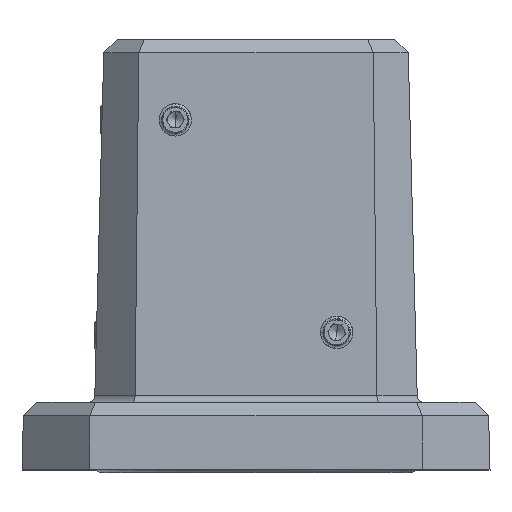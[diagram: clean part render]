
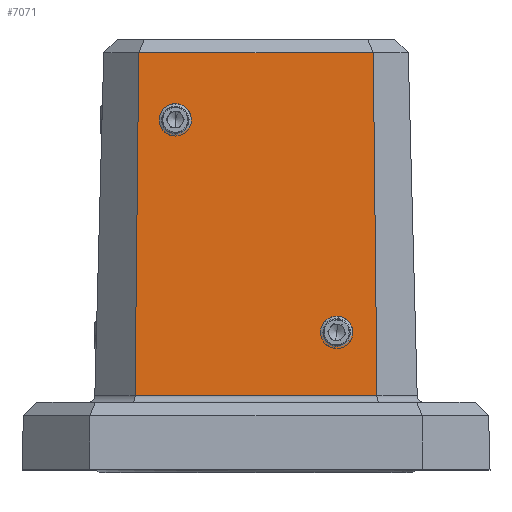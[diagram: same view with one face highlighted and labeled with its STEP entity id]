
A CAD part, top view. The second image highlights one B-rep face of the part: STEP entity #7071.
In plain terms, the highlighted planar face has unit normal (0, 0.026, 1).
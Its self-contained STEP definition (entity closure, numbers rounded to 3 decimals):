
#2274=DIRECTION('',(-0.011,1.,-0.026));
#2275=VECTOR('',#2274,127.617);
#2276=CARTESIAN_POINT('',(44.974,27.435,59.936));
#2277=LINE('',#2276,#2275);
#2288=DIRECTION('',(1.,0.,0.));
#2289=VECTOR('',#2288,89.947);
#2290=CARTESIAN_POINT('',(-44.974,27.435,59.936));
#2291=LINE('',#2290,#2289);
#2295=DIRECTION('',(0.011,1.,-0.026));
#2296=VECTOR('',#2295,127.617);
#2297=CARTESIAN_POINT('',(-44.974,27.435,59.936));
#2298=LINE('',#2297,#2296);
#2302=DIRECTION('',(1.,0.,0.));
#2303=VECTOR('',#2302,87.18);
#2304=CARTESIAN_POINT('',(-43.59,155.,56.596));
#2305=LINE('',#2304,#2303);
#2309=CARTESIAN_POINT('',(-35.1,130.,57.25));
#2310=CARTESIAN_POINT('',(-35.1,130.601,57.235));
#2311=CARTESIAN_POINT('',(-34.881,131.899,57.201));
#2312=CARTESIAN_POINT('',(-33.717,133.714,57.153));
#2313=CARTESIAN_POINT('',(-31.887,134.882,57.123));
#2314=CARTESIAN_POINT('',(-30.,135.209,57.114));
#2315=CARTESIAN_POINT('',(-28.113,134.882,57.123));
#2316=CARTESIAN_POINT('',(-26.283,133.714,57.153));
#2317=CARTESIAN_POINT('',(-25.119,131.899,57.201));
#2318=CARTESIAN_POINT('',(-24.9,130.601,57.235));
#2319=CARTESIAN_POINT('',(-24.9,130.,57.25));
#2324=CARTESIAN_POINT('',(-24.9,130.,57.25));
#2325=CARTESIAN_POINT('',(-24.9,129.399,57.266));
#2326=CARTESIAN_POINT('',(-25.119,128.101,57.3));
#2327=CARTESIAN_POINT('',(-26.283,126.286,57.348));
#2328=CARTESIAN_POINT('',(-28.113,125.118,57.378));
#2329=CARTESIAN_POINT('',(-30.,124.791,57.387));
#2330=CARTESIAN_POINT('',(-31.887,125.118,57.378));
#2331=CARTESIAN_POINT('',(-33.717,126.286,57.348));
#2332=CARTESIAN_POINT('',(-34.881,128.101,57.3));
#2333=CARTESIAN_POINT('',(-35.1,129.399,57.266));
#2334=CARTESIAN_POINT('',(-35.1,130.,57.25));
#2339=CARTESIAN_POINT('',(24.9,51.,59.319));
#2340=CARTESIAN_POINT('',(24.9,51.601,59.303));
#2341=CARTESIAN_POINT('',(25.119,52.899,59.269));
#2342=CARTESIAN_POINT('',(26.283,54.714,59.222));
#2343=CARTESIAN_POINT('',(28.113,55.882,59.191));
#2344=CARTESIAN_POINT('',(30.,56.209,59.183));
#2345=CARTESIAN_POINT('',(31.887,55.882,59.191));
#2346=CARTESIAN_POINT('',(33.717,54.714,59.222));
#2347=CARTESIAN_POINT('',(34.881,52.899,59.269));
#2348=CARTESIAN_POINT('',(35.1,51.601,59.303));
#2349=CARTESIAN_POINT('',(35.1,51.,59.319));
#2354=CARTESIAN_POINT('',(35.1,51.,59.319));
#2355=CARTESIAN_POINT('',(35.1,50.399,59.335));
#2356=CARTESIAN_POINT('',(34.881,49.101,59.369));
#2357=CARTESIAN_POINT('',(33.717,47.286,59.416));
#2358=CARTESIAN_POINT('',(31.887,46.118,59.447));
#2359=CARTESIAN_POINT('',(30.,45.791,59.456));
#2360=CARTESIAN_POINT('',(28.113,46.118,59.447));
#2361=CARTESIAN_POINT('',(26.283,47.286,59.416));
#2362=CARTESIAN_POINT('',(25.119,49.101,59.369));
#2363=CARTESIAN_POINT('',(24.9,50.399,59.335));
#2364=CARTESIAN_POINT('',(24.9,51.,59.319));
#6020=CARTESIAN_POINT('',(-44.974,27.435,59.936));
#6021=CARTESIAN_POINT('',(44.974,27.435,59.936));
#6022=VERTEX_POINT('',#6020);
#6023=VERTEX_POINT('',#6021);
#6085=CARTESIAN_POINT('',(-43.59,155.,56.596));
#6086=VERTEX_POINT('',#6085);
#6087=CARTESIAN_POINT('',(43.59,155.,56.596));
#6088=VERTEX_POINT('',#6087);
#6141=VERTEX_POINT('',#2309);
#6142=VERTEX_POINT('',#2319);
#6145=VERTEX_POINT('',#2339);
#6146=VERTEX_POINT('',#2349);
#7046=CARTESIAN_POINT('',(-49.523,25.,60.));
#7047=DIRECTION('',(0.,0.026,1.));
#7048=DIRECTION('',(1.,0.,0.));
#7049=AXIS2_PLACEMENT_3D('',#7046,#7047,#7048);
#7050=PLANE('',#7049);
#7052=ORIENTED_EDGE('',*,*,#7051,.F.);
#7053=ORIENTED_EDGE('',*,*,#6761,.T.);
#7055=ORIENTED_EDGE('',*,*,#7054,.T.);
#7056=ORIENTED_EDGE('',*,*,#7031,.F.);
#7057=EDGE_LOOP('',(#7052,#7053,#7055,#7056));
#7058=FACE_OUTER_BOUND('',#7057,.F.);
#7060=ORIENTED_EDGE('',*,*,#7059,.F.);
#7062=ORIENTED_EDGE('',*,*,#7061,.F.);
#7063=EDGE_LOOP('',(#7060,#7062));
#7064=FACE_BOUND('',#7063,.F.);
#7066=ORIENTED_EDGE('',*,*,#7065,.F.);
#7068=ORIENTED_EDGE('',*,*,#7067,.F.);
#7069=EDGE_LOOP('',(#7066,#7068));
#7070=FACE_BOUND('',#7069,.F.);
#2320=B_SPLINE_CURVE_WITH_KNOTS('',3,(#2309,#2310,#2311,#2312,#2313,#2314,#2315,
#2316,#2317,#2318,#2319),.UNSPECIFIED.,.F.,.F.,(4,1,1,1,1,1,1,1,4),(0.,
0.125,0.25,0.375,0.5,0.625,0.75,0.875,1.),.UNSPECIFIED.);
#2335=B_SPLINE_CURVE_WITH_KNOTS('',3,(#2324,#2325,#2326,#2327,#2328,#2329,#2330,
#2331,#2332,#2333,#2334),.UNSPECIFIED.,.F.,.F.,(4,1,1,1,1,1,1,1,4),(0.,
0.125,0.25,0.375,0.5,0.625,0.75,0.875,1.),.UNSPECIFIED.);
#2350=B_SPLINE_CURVE_WITH_KNOTS('',3,(#2339,#2340,#2341,#2342,#2343,#2344,#2345,
#2346,#2347,#2348,#2349),.UNSPECIFIED.,.F.,.F.,(4,1,1,1,1,1,1,1,4),(0.,
0.125,0.25,0.375,0.5,0.625,0.75,0.875,1.),.UNSPECIFIED.);
#2365=B_SPLINE_CURVE_WITH_KNOTS('',3,(#2354,#2355,#2356,#2357,#2358,#2359,#2360,
#2361,#2362,#2363,#2364),.UNSPECIFIED.,.F.,.F.,(4,1,1,1,1,1,1,1,4),(0.,
0.125,0.25,0.375,0.5,0.625,0.75,0.875,1.),.UNSPECIFIED.);
#6761=EDGE_CURVE('',#6022,#6086,#2298,.T.);
#7031=EDGE_CURVE('',#6023,#6088,#2277,.T.);
#7051=EDGE_CURVE('',#6022,#6023,#2291,.T.);
#7054=EDGE_CURVE('',#6086,#6088,#2305,.T.);
#7059=EDGE_CURVE('',#6141,#6142,#2320,.T.);
#7061=EDGE_CURVE('',#6142,#6141,#2335,.T.);
#7065=EDGE_CURVE('',#6145,#6146,#2350,.T.);
#7067=EDGE_CURVE('',#6146,#6145,#2365,.T.);
#7071=ADVANCED_FACE('',(#7058,#7064,#7070),#7050,.T.);
